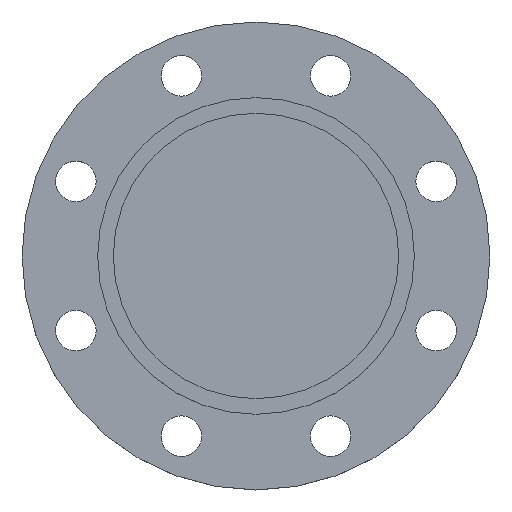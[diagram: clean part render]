
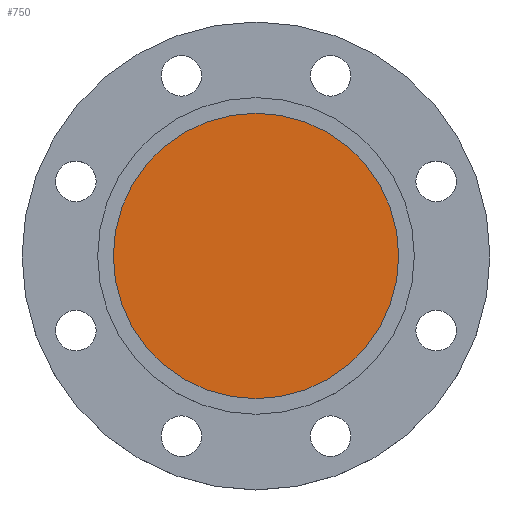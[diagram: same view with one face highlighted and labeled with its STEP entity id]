
A CAD part, top view. The second image highlights one B-rep face of the part: STEP entity #750.
In plain terms, the highlighted planar face has unit normal (0, 0, 1).
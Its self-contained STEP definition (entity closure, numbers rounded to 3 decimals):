
#93 = DIRECTION ( 'NONE',  ( -1., 0., 0. ) ) ;
#94 = DIRECTION ( 'NONE',  ( 0., 0., -1. ) ) ;
#95 = CARTESIAN_POINT ( 'NONE',  ( 0., 0., -5. ) ) ;
#98 = AXIS2_PLACEMENT_3D ( 'NONE', #95, #94, #93 ) ;
#157 = CIRCLE ( 'NONE', #164, 91.5 ) ;
#164 = AXIS2_PLACEMENT_3D ( 'NONE', #727, #728, #730 ) ;
#254 = CARTESIAN_POINT ( 'NONE',  ( 91.5, 0., -5. ) ) ;
#304 = EDGE_CURVE ( 'NONE', #498, #792, #157, .T. ) ;
#326 = DIRECTION ( 'NONE',  ( 1., 0., 0. ) ) ;
#327 = DIRECTION ( 'NONE',  ( 0., 0., 1. ) ) ;
#328 = CARTESIAN_POINT ( 'NONE',  ( 91.5, 0., -5. ) ) ;
#329 = PLANE ( 'NONE',  #415 ) ;
#330 = FACE_OUTER_BOUND ( 'NONE', #804, .T. ) ;
#415 = AXIS2_PLACEMENT_3D ( 'NONE', #328, #327, #326 ) ;
#464 = CIRCLE ( 'NONE', #98, 91.5 ) ;
#498 = VERTEX_POINT ( 'NONE', #606 ) ;
#606 = CARTESIAN_POINT ( 'NONE',  ( -91.5, 0., -5. ) ) ;
#727 = CARTESIAN_POINT ( 'NONE',  ( 0., 0., -5. ) ) ;
#728 = DIRECTION ( 'NONE',  ( 0., 0., -1. ) ) ;
#730 = DIRECTION ( 'NONE',  ( -1., 0., 0. ) ) ;
#750 = ADVANCED_FACE ( 'NONE', ( #330 ), #329, .T. ) ;
#792 = VERTEX_POINT ( 'NONE', #254 ) ;
#804 = EDGE_LOOP ( 'NONE', ( #964, #965 ) ) ;
#934 = EDGE_CURVE ( 'NONE', #792, #498, #464, .T. ) ;
#964 = ORIENTED_EDGE ( 'NONE', *, *, #304, .F. ) ;
#965 = ORIENTED_EDGE ( 'NONE', *, *, #934, .F. ) ;
